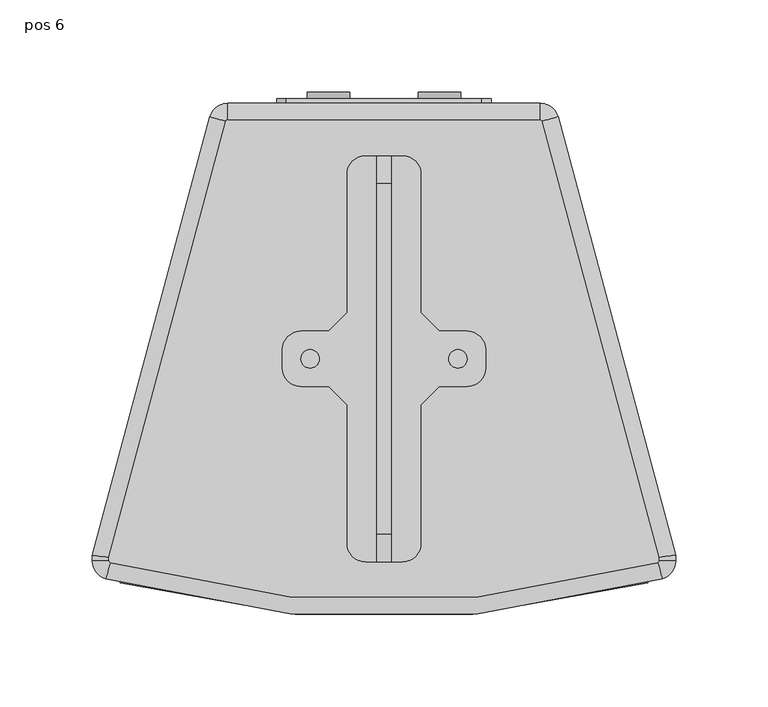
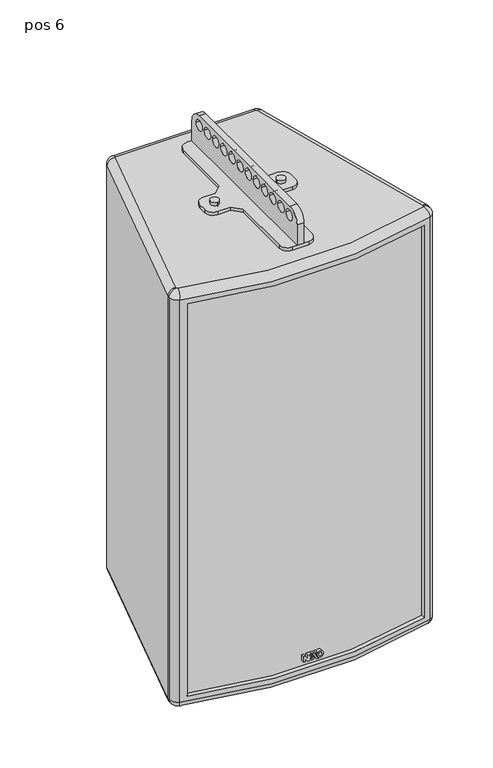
"""IFC4 building model written with IfcOpenShell, lengths in millimetres: proxy geometry, ePS10-BUMP-TRUSSVM : pos 6."""

from ifc_helpers import new_model, si_unit, point, frame, frame_2d, origin, origin_2d, place, context, project, spatial, polyline, circle_curve, ellipse_curve, trimmed, segment, composite_curve, outline, extrude, source, transform, mapped, element, save
from ifc_brep_helpers import plane_surface, cylinder_surface, revolved_surface, advanced_brep


def pos_6_8d53869b(model_context):
    return source(origin(), model_context, "Body", "SolidModel", [
        extrude(outline(composite_curve([segment(trimmed(circle_curve(frame_2d((-40.0511607, 8.0259228)), 5.0), [point((-45.0511607, 8.0259228))], [point((-35.0511607, 8.0259228))], False, "CARTESIAN"), True, "CONTINUOUS"), segment(trimmed(circle_curve(frame_2d((-40.0511607, 8.0259228)), 5.0), [point((-35.0511607, 8.0259228))], [point((-45.0511607, 8.0259228))], False, "CARTESIAN"), True, "CONTINUOUS")], self_intersect=False)), frame((0.0, 0.0, -29.0), z_axis=(0.0, 0.0, 1.0), x_axis=(1.0, 0.0, 0.0)), (0.0, 0.0, 1.0), 4.0),
        extrude(outline(composite_curve([segment(trimmed(circle_curve(frame_2d((40.0511607, 8.0259228)), 5.0), [point((45.0511607, 8.0259228))], [point((35.0511607, 8.0259228))], False, "CARTESIAN"), True, "CONTINUOUS"), segment(trimmed(circle_curve(frame_2d((40.0511607, 8.0259228)), 5.0), [point((35.0511607, 8.0259228))], [point((45.0511607, 8.0259228))], False, "CARTESIAN"), True, "CONTINUOUS")], self_intersect=False)), frame((0.0, 0.0, -29.0), z_axis=(0.0, 0.0, 1.0), x_axis=(1.0, 0.0, 0.0)), (0.0, 0.0, 1.0), 4.0),
        extrude(outline(composite_curve([segment(trimmed(circle_curve(frame_2d((103.0259228, -3.0)), 15.0), [point((103.0259228, 12.0))], [point((118.0259228, -3.0))], False, "CARTESIAN"), True, "CONTINUOUS"), segment(polyline([(118.0259228, -3.0), (118.0259228, -29.0), (-101.9740772, -29.0), (-101.9740772, -3.0)]), True, "CONTINUOUS"), segment(trimmed(circle_curve(frame_2d((-86.9740772, -3.0)), 15.0), [point((-101.9740772, -3.0))], [point((-86.9740772, 12.0))], False, "CARTESIAN"), True, "CONTINUOUS"), segment(polyline([(-86.9740772, 12.0), (103.0259228, 12.0)]), True, "CONTINUOUS")], self_intersect=False), holes=[composite_curve([segment(trimmed(circle_curve(origin_2d(), 6.5), [point((-6.5, 0.0))], [point((6.5, 0.0))], True, "CARTESIAN"), True, "CONTINUOUS"), segment(trimmed(circle_curve(origin_2d(), 6.5), [point((6.5, 0.0))], [point((-6.5, 0.0))], True, "CARTESIAN"), True, "CONTINUOUS")], self_intersect=False), composite_curve([segment(trimmed(circle_curve(frame_2d((-17.078125, 0.0)), 6.5), [point((-23.578125, 0.0))], [point((-10.578125, 0.0))], True, "CARTESIAN"), True, "CONTINUOUS"), segment(trimmed(circle_curve(frame_2d((-17.078125, 0.0)), 6.5), [point((-10.578125, 0.0))], [point((-23.578125, 0.0))], True, "CARTESIAN"), True, "CONTINUOUS")], self_intersect=False), composite_curve([segment(trimmed(circle_curve(frame_2d((-34.15625, 0.0)), 6.5), [point((-40.65625, 0.0))], [point((-27.65625, 0.0))], True, "CARTESIAN"), True, "CONTINUOUS"), segment(trimmed(circle_curve(frame_2d((-34.15625, 0.0)), 6.5), [point((-27.65625, 0.0))], [point((-40.65625, 0.0))], True, "CARTESIAN"), True, "CONTINUOUS")], self_intersect=False), composite_curve([segment(trimmed(circle_curve(frame_2d((-51.234375, 0.0)), 6.5), [point((-57.734375, 0.0))], [point((-44.734375, 0.0))], True, "CARTESIAN"), True, "CONTINUOUS"), segment(trimmed(circle_curve(frame_2d((-51.234375, 0.0)), 6.5), [point((-44.734375, 0.0))], [point((-57.734375, 0.0))], True, "CARTESIAN"), True, "CONTINUOUS")], self_intersect=False), composite_curve([segment(trimmed(circle_curve(frame_2d((-68.3125, 0.0)), 6.5), [point((-74.8125, 0.0))], [point((-61.8125, 0.0))], True, "CARTESIAN"), True, "CONTINUOUS"), segment(trimmed(circle_curve(frame_2d((-68.3125, 0.0)), 6.5), [point((-61.8125, 0.0))], [point((-74.8125, 0.0))], True, "CARTESIAN"), True, "CONTINUOUS")], self_intersect=False), composite_curve([segment(trimmed(circle_curve(frame_2d((-85.390625, 0.0)), 6.5), [point((-91.890625, 0.0))], [point((-78.890625, 0.0))], True, "CARTESIAN"), True, "CONTINUOUS"), segment(trimmed(circle_curve(frame_2d((-85.390625, 0.0)), 6.5), [point((-78.890625, 0.0))], [point((-91.890625, 0.0))], True, "CARTESIAN"), True, "CONTINUOUS")], self_intersect=False), composite_curve([segment(trimmed(circle_curve(frame_2d((17.1087587, 0.0)), 6.5), [point((23.6087587, 0.0))], [point((10.6087587, 0.0))], True, "CARTESIAN"), True, "CONTINUOUS"), segment(trimmed(circle_curve(frame_2d((17.1087587, 0.0)), 6.5), [point((10.6087587, 0.0))], [point((23.6087587, 0.0))], True, "CARTESIAN"), True, "CONTINUOUS")], self_intersect=False), composite_curve([segment(trimmed(circle_curve(frame_2d((34.1868837, 0.0)), 6.5), [point((40.6868837, 0.0))], [point((27.6868837, 0.0))], True, "CARTESIAN"), True, "CONTINUOUS"), segment(trimmed(circle_curve(frame_2d((34.1868837, 0.0)), 6.5), [point((27.6868837, 0.0))], [point((40.6868837, 0.0))], True, "CARTESIAN"), True, "CONTINUOUS")], self_intersect=False), composite_curve([segment(trimmed(circle_curve(frame_2d((51.2650087, 0.0)), 6.5), [point((57.7650087, 0.0))], [point((44.7650087, 0.0))], True, "CARTESIAN"), True, "CONTINUOUS"), segment(trimmed(circle_curve(frame_2d((51.2650087, 0.0)), 6.5), [point((44.7650087, 0.0))], [point((57.7650087, 0.0))], True, "CARTESIAN"), True, "CONTINUOUS")], self_intersect=False), composite_curve([segment(trimmed(circle_curve(frame_2d((68.3431337, 0.0)), 6.5), [point((74.8431337, 0.0))], [point((61.8431337, 0.0))], True, "CARTESIAN"), True, "CONTINUOUS"), segment(trimmed(circle_curve(frame_2d((68.3431337, 0.0)), 6.5), [point((61.8431337, 0.0))], [point((74.8431337, 0.0))], True, "CARTESIAN"), True, "CONTINUOUS")], self_intersect=False), composite_curve([segment(trimmed(circle_curve(frame_2d((85.4212587, 0.0)), 6.5), [point((91.9212587, 0.0))], [point((78.9212587, 0.0))], True, "CARTESIAN"), True, "CONTINUOUS"), segment(trimmed(circle_curve(frame_2d((85.4212587, 0.0)), 6.5), [point((78.9212587, 0.0))], [point((91.9212587, 0.0))], True, "CARTESIAN"), True, "CONTINUOUS")], self_intersect=False), composite_curve([segment(trimmed(circle_curve(frame_2d((102.4993837, 0.0)), 6.5), [point((108.9993837, 0.0))], [point((95.9993837, 0.0))], True, "CARTESIAN"), True, "CONTINUOUS"), segment(trimmed(circle_curve(frame_2d((102.4993837, 0.0)), 6.5), [point((95.9993837, 0.0))], [point((108.9993837, 0.0))], True, "CARTESIAN"), True, "CONTINUOUS")], self_intersect=False)]), frame((-4.0, 0.0, 0.0), z_axis=(1.0, 0.0, 0.0), x_axis=(0.0, 1.0, 0.0)), (0.0, 0.0, 1.0), 8.0),
        extrude(outline(composite_curve([segment(polyline([(-20.0, 33.0259228), (-20.0, 108.0259228)]), True, "CONTINUOUS"), segment(trimmed(circle_curve(frame_2d((-10.0, 108.0259228)), 10.0), [point((-20.0, 108.0259228))], [point((-10.0, 118.0259228))], False, "CARTESIAN"), True, "CONTINUOUS"), segment(polyline([(-10.0, 118.0259228), (10.0, 118.0259228)]), True, "CONTINUOUS"), segment(trimmed(circle_curve(frame_2d((10.0, 108.0259228)), 10.0), [point((10.0, 118.0259228))], [point((20.0, 108.0259228))], False, "CARTESIAN"), True, "CONTINUOUS"), segment(polyline([(20.0, 108.0259228), (20.0, 33.0259228), (30.0, 23.0259228), (45.0, 23.0259228)]), True, "CONTINUOUS"), segment(trimmed(circle_curve(frame_2d((45.0, 13.0259228)), 10.0), [point((45.0, 23.0259228))], [point((55.0, 13.0259228))], False, "CARTESIAN"), True, "CONTINUOUS"), segment(polyline([(55.0, 13.0259228), (55.0, 3.0259228)]), True, "CONTINUOUS"), segment(trimmed(circle_curve(frame_2d((45.0, 3.0259228)), 10.0), [point((55.0, 3.0259228))], [point((45.0, -6.9740772))], False, "CARTESIAN"), True, "CONTINUOUS"), segment(polyline([(45.0, -6.9740772), (30.0, -6.9740772), (20.0, -16.9740772), (20.0, -91.9740772)]), True, "CONTINUOUS"), segment(trimmed(circle_curve(frame_2d((10.0, -91.9740772)), 10.0), [point((20.0, -91.9740772))], [point((10.0, -101.9740772))], False, "CARTESIAN"), True, "CONTINUOUS"), segment(polyline([(10.0, -101.9740772), (-10.0, -101.9740772)]), True, "CONTINUOUS"), segment(trimmed(circle_curve(frame_2d((-10.0, -91.9740772)), 10.0), [point((-10.0, -101.9740772))], [point((-20.0, -91.9740772))], False, "CARTESIAN"), True, "CONTINUOUS"), segment(polyline([(-20.0, -91.9740772), (-20.0, -16.9740772), (-30.0, -6.9740772), (-45.0, -6.9740772)]), True, "CONTINUOUS"), segment(trimmed(circle_curve(frame_2d((-45.0, 3.0259228)), 10.0), [point((-45.0, -6.9740772))], [point((-55.0, 3.0259228))], False, "CARTESIAN"), True, "CONTINUOUS"), segment(polyline([(-55.0, 3.0259228), (-55.0, 13.0259228)]), True, "CONTINUOUS"), segment(trimmed(circle_curve(frame_2d((-45.0, 13.0259228)), 10.0), [point((-55.0, 13.0259228))], [point((-45.0, 23.0259228))], False, "CARTESIAN"), True, "CONTINUOUS"), segment(polyline([(-45.0, 23.0259228), (-30.0, 23.0259228), (-20.0, 33.0259228)]), True, "CONTINUOUS")], self_intersect=False), holes=[composite_curve([segment(trimmed(circle_curve(frame_2d((-40.0102651, 8.0259228)), 3.0), [point((-43.0102651, 8.0259228))], [point((-37.0102651, 8.0259228))], True, "CARTESIAN"), True, "CONTINUOUS"), segment(trimmed(circle_curve(frame_2d((-40.0102651, 8.0259228)), 3.0), [point((-37.0102651, 8.0259228))], [point((-43.0102651, 8.0259228))], True, "CARTESIAN"), True, "CONTINUOUS")], self_intersect=False), composite_curve([segment(trimmed(circle_curve(frame_2d((40.0102651, 8.0259228)), 3.0), [point((43.0102651, 8.0259228))], [point((37.0102651, 8.0259228))], True, "CARTESIAN"), True, "CONTINUOUS"), segment(trimmed(circle_curve(frame_2d((40.0102651, 8.0259228)), 3.0), [point((37.0102651, 8.0259228))], [point((43.0102651, 8.0259228))], True, "CARTESIAN"), True, "CONTINUOUS")], self_intersect=False)]), frame((0.0, 0.0, -33.0), z_axis=(0.0, 0.0, 1.0), x_axis=(1.0, 0.0, 0.0)), (0.0, 0.0, 1.0), 4.0),
        extrude(outline(composite_curve([segment(trimmed(circle_curve(frame_2d((-538.2298911, 8.0750207)), 3.9406238), [point((-538.2298911, 4.1343969))], [point((-538.2298911, 12.0156446))], False, "CARTESIAN"), True, "CONTINUOUS"), segment(trimmed(circle_curve(frame_2d((-538.2298911, 8.0750207)), 3.9406238), [point((-538.2298911, 12.0156446))], [point((-538.2298911, 4.1343969))], False, "CARTESIAN"), True, "CONTINUOUS")], self_intersect=False), holes=[composite_curve([segment(trimmed(circle_curve(frame_2d((-538.2298911, 8.0750207)), 2.0681078), [point((-538.2298911, 6.0069129))], [point((-538.2298911, 10.1431285))], True, "CARTESIAN"), True, "CONTINUOUS"), segment(trimmed(circle_curve(frame_2d((-538.2298911, 8.0750207)), 2.0681078), [point((-538.2298911, 10.1431285))], [point((-538.2298911, 6.0069129))], True, "CARTESIAN"), True, "CONTINUOUS")], self_intersect=False)]), frame((0.0, -129.4740772, 0.0), z_axis=(0.0, 1.0, 0.0), x_axis=(0.0, 0.0, 1.0)), (0.0, 0.0, 1.0), 5.0),
        extrude(outline(polyline([(-534.5590531, -11.9363528), (-541.8388202, -11.9363528), (-541.8388202, -10.0439855), (-537.6734899, -10.0439855), (-541.8388202, -7.2688886), (-541.8388202, -0.4179789), (-539.963849, 0.9005934), (-538.3643156, -0.1627837), (-540.2361557, -1.5323263), (-540.2361557, -4.5659556), (-538.9818684, -4.5659556), (-538.9818684, -2.2828427), (-537.3791381, -2.2828427), (-537.3791381, -4.5659556), (-536.1626349, -4.5659556), (-536.1626349, -2.1588809), (-535.3626349, -2.1588809), (-534.5599046, -2.6925396), (-534.5599046, -6.9609157), (-539.0099607, -6.9706073), (-534.5590531, -9.9098734), (-534.5590531, -11.9363528)])), frame((0.0, -129.4740772, 0.0), z_axis=(0.0, 1.0, 0.0), x_axis=(0.0, 0.0, 1.0)), (0.0, 0.0, 1.0), 5.0),
        extrude(outline(polyline([(-534.5590531, -2.0512245), (-542.8, 3.4273947), (-542.8, 5.6205974), (-534.5590531, 0.1419782), (-534.5590531, -2.0512245)])), frame((0.0, -129.4740772, 0.0), z_axis=(0.0, 1.0, 0.0), x_axis=(0.0, 0.0, 1.0)), (0.0, 0.0, 1.0), 5.0),
        extrude(outline(polyline([(-534.5590531, 4.6894095), (-534.5590531, 2.362619), (-535.8270101, 1.6148247), (-537.457904, 2.6990504), (-534.5590531, 4.6894095)])), frame((0.0, -129.4740772, 0.0), z_axis=(0.0, 1.0, 0.0), x_axis=(0.0, 0.0, 1.0)), (0.0, 0.0, 1.0), 5.0),
        extrude(outline(composite_curve([segment(trimmed(circle_curve(frame_2d((-526.5, -30.0)), 11.4515227), [point((-526.5, -18.5484773))], [point((-526.5, -41.4515227))], False, "CARTESIAN"), True, "CONTINUOUS"), segment(trimmed(circle_curve(frame_2d((-526.5, -30.0)), 11.4515227), [point((-526.5, -41.4515227))], [point((-526.5, -18.5484773))], False, "CARTESIAN"), True, "CONTINUOUS")], self_intersect=False), holes=[composite_curve([segment(trimmed(circle_curve(frame_2d((-526.5, -30.0)), 5.0), [point((-526.5, -25.0))], [point((-526.5, -35.0))], True, "CARTESIAN"), True, "CONTINUOUS"), segment(trimmed(circle_curve(frame_2d((-526.5, -30.0)), 5.0), [point((-526.5, -35.0))], [point((-526.5, -25.0))], True, "CARTESIAN"), True, "CONTINUOUS")], self_intersect=False)]), frame((0.0, 149.1206583, 0.0), z_axis=(0.0, 1.0, 0.0), x_axis=(0.0, 0.0, 1.0)), (0.0, 0.0, 1.0), 3.4052646),
        extrude(outline(composite_curve([segment(trimmed(circle_curve(frame_2d((-526.5, 30.0)), 11.4515227), [point((-526.5, 41.4515227))], [point((-526.5, 18.5484773))], False, "CARTESIAN"), True, "CONTINUOUS"), segment(trimmed(circle_curve(frame_2d((-526.5, 30.0)), 11.4515227), [point((-526.5, 18.5484773))], [point((-526.5, 41.4515227))], False, "CARTESIAN"), True, "CONTINUOUS")], self_intersect=False), holes=[composite_curve([segment(trimmed(circle_curve(frame_2d((-526.5, 30.0)), 5.0), [point((-526.5, 35.0))], [point((-526.5, 25.0))], True, "CARTESIAN"), True, "CONTINUOUS"), segment(trimmed(circle_curve(frame_2d((-526.5, 30.0)), 5.0), [point((-526.5, 25.0))], [point((-526.5, 35.0))], True, "CARTESIAN"), True, "CONTINUOUS")], self_intersect=False)]), frame((0.0, 149.1206583, 0.0), z_axis=(0.0, 1.0, 0.0), x_axis=(0.0, 0.0, 1.0)), (0.0, 0.0, 1.0), 3.4052646),
        extrude(outline(composite_curve([segment(polyline([(-507.5, 53.0), (-507.5, -53.0)]), True, "CONTINUOUS"), segment(trimmed(circle_curve(frame_2d((-512.5, -53.0)), 5.0), [point((-507.5, -53.0))], [point((-512.5, -58.0))], False, "CARTESIAN"), True, "CONTINUOUS"), segment(polyline([(-512.5, -58.0), (-540.5, -58.0)]), True, "CONTINUOUS"), segment(trimmed(circle_curve(frame_2d((-540.5, -53.0)), 5.0), [point((-540.5, -58.0))], [point((-545.5, -53.0))], False, "CARTESIAN"), True, "CONTINUOUS"), segment(polyline([(-545.5, -53.0), (-545.5, 53.0)]), True, "CONTINUOUS"), segment(trimmed(circle_curve(frame_2d((-540.5, 53.0)), 5.0), [point((-545.5, 53.0))], [point((-540.5, 58.0))], False, "CARTESIAN"), True, "CONTINUOUS"), segment(polyline([(-540.5, 58.0), (-512.5, 58.0)]), True, "CONTINUOUS"), segment(trimmed(circle_curve(frame_2d((-512.5, 53.0)), 5.0), [point((-512.5, 58.0))], [point((-507.5, 53.0))], False, "CARTESIAN"), True, "CONTINUOUS")], self_intersect=False)), frame((0.0, 146.6206583, 0.0), z_axis=(0.0, 1.0, 0.0), x_axis=(0.0, 0.0, 1.0)), (0.0, 0.0, 1.0), 2.5),
        advanced_brep(
        [(0.0, 3.0259228, -37.0), (0.0, 13.0259228, -37.0), (0.0, 13.0259228, -33.0), (0.0, 3.0259228, -33.0), (40.0, 3.0259228, -37.0), (40.0, 13.0259228, -37.0), (40.0, 13.0259228, -33.0), (40.0, 3.0259228, -33.0), (-143.0, -113.3746266, -48.0), (-143.0, -108.1907902, -48.0), (143.0, -108.1907902, -48.0), (143.0, -113.3746266, -48.0), (143.0, -113.3746266, -549.0), (143.0, -108.1907902, -549.0), (-143.0, -108.1907902, -549.0), (-143.0, -113.3746266, -549.0), (0.0, 13.0259228, -560.0), (0.0, 3.0259228, -560.0), (-40.0, 13.0259228, -560.0), (-40.0, 3.0259228, -560.0), (40.0, 13.0259228, -560.0), (40.0, 3.0259228, -560.0), (-158.0, -98.4045543, -41.9917234), (-94.3316806, 139.2088487, -41.9917234), (-94.3316806, 139.2088487, -555.0), (-158.0, -98.4045543, -555.0), (-158.0, -101.5881594, -41.9917234), (-158.0, -101.5881594, -555.0), (150.7700973, -111.1968305, -41.9917234), (-150.7700973, -111.1968305, -41.9917234), (-150.7700973, -111.1968305, -555.000006), (150.7700973, -111.1968305, -555.0), (158.0, -98.4045543, -41.9917234), (158.0, -101.5881594, -41.9917234), (158.0, -101.5881594, -555.0), (158.0, -98.4045543, -555.0), (94.3316806, 139.2088487, -41.9917234), (94.3316806, 139.2088487, -555.0), (84.6724223, 146.6206583, -41.9917234), (84.6724223, 146.6206583, -555.0), (-40.6566026, 140.5259228, -228.5), (-29.3432823, 140.5259228, -228.5), (-29.3432823, 146.6206583, -228.5), (-40.6566026, 146.6206583, -228.5), (-149.0082766, -101.5881594, -33.0), (-148.2793024, -102.5569793, -33.0), (148.2793024, -102.5569793, -33.0), (149.0082766, -101.5881594, -33.0), (149.0082766, -99.5883371, -33.0), (85.6463427, 136.8816195, -33.0), (84.6724223, 137.6289349, -33.0), (-84.6724223, 146.6206583, -41.9917234), (-84.6724223, 137.6289349, -33.0), (-85.6463427, 136.8816195, -33.0), (-149.0082766, -99.5883371, -33.0), (-40.0, 3.0259228, -33.0), (-40.0, 13.0259228, -33.0), (84.6724223, 137.6206583, -564.0), (85.6383481, 136.8794773, -564.0), (149.0, -99.5894268, -564.0), (149.0, -101.5881594, -564.0), (148.2770097, -102.5490265, -564.0), (-148.2770097, -102.5490265, -564.0), (-149.0, -101.5881594, -564.0), (-149.0, -99.5894268, -564.0), (-85.6383481, 136.8794773, -564.0), (-84.6724223, 137.6206583, -564.0), (0.0, 13.0259228, -564.0), (0.0, 3.0259228, -564.0), (-40.0, 13.0259228, -564.0), (-40.0, 3.0259228, -564.0), (40.0, 13.0259228, -564.0), (40.0, 3.0259228, -564.0), (-40.0, 13.0259228, -37.0), (-40.0, 3.0259228, -37.0), (40.6567177, 140.5259228, -298.5), (29.3433974, 140.5259228, -298.5), (-29.3432823, 140.5259228, -298.5), (-40.6566026, 140.5259228, -298.5), (29.3433974, 146.6206583, -298.5), (40.6567177, 146.6206583, -298.5), (-84.6724223, 146.6206583, -555.0), (-29.3432823, 146.6206583, -298.5), (-40.6566026, 146.6206583, -298.5)],
        [
            (0, 1, circle_curve(frame((0.0, 8.0259228, -37.0), z_axis=(0.0, 0.0, -1.0), x_axis=(0.0, -1.0, 0.0)), 5.0)),
            (1, 2),
            (2, 3, circle_curve(frame((0.0, 8.0259228, -33.0), z_axis=(0.0, 0.0, 1.0), x_axis=(0.0, -1.0, 0.0)), 5.0)),
            (3, 0),
            (4, 5, circle_curve(frame((40.0, 8.0259228, -37.0), z_axis=(0.0, 0.0, -1.0), x_axis=(0.0, -1.0, 0.0)), 5.0)),
            (5, 6),
            (6, 7, circle_curve(frame((40.0, 8.0259228, -33.0), z_axis=(0.0, 0.0, 1.0), x_axis=(0.0, -1.0, 0.0)), 5.0)),
            (7, 4),
            (8, 9),
            (9, 10, circle_curve(frame((0.0, 411.7812942, -48.0), z_axis=(0.0, 0.0, 1.0), x_axis=(1.0, 0.0, 0.0)), 539.277265)),
            (10, 11),
            (11, 8, circle_curve(frame((0.0, 411.7812942, -48.0), z_axis=(0.0, 0.0, -1.0), x_axis=(1.0, 0.0, 0.0)), 544.277265)),
            (12, 13),
            (13, 14, circle_curve(frame((0.0, 411.7812942, -549.0), z_axis=(0.0, 0.0, -1.0), x_axis=(1.0, 0.0, 0.0)), 539.277265)),
            (14, 15),
            (15, 12, circle_curve(frame((0.0, 411.7812942, -549.0), z_axis=(0.0, 0.0, 1.0), x_axis=(1.0, 0.0, 0.0)), 544.277265)),
            (16, 17, circle_curve(frame((0.0, 8.0259228, -560.0), z_axis=(0.0, 0.0, -1.0), x_axis=(0.0, -1.0, 0.0)), 5.0)),
            (17, 16, circle_curve(frame((0.0, 8.0259228, -560.0), z_axis=(0.0, 0.0, -1.0), x_axis=(0.0, -1.0, 0.0)), 5.0)),
            (18, 19, circle_curve(frame((-40.0, 8.0259228, -560.0), z_axis=(0.0, 0.0, -1.0), x_axis=(0.0, -1.0, 0.0)), 5.0)),
            (19, 18, circle_curve(frame((-40.0, 8.0259228, -560.0), z_axis=(0.0, 0.0, -1.0), x_axis=(0.0, -1.0, 0.0)), 5.0)),
            (20, 21, circle_curve(frame((40.0, 8.0259228, -560.0), z_axis=(0.0, 0.0, -1.0), x_axis=(0.0, -1.0, 0.0)), 5.0)),
            (21, 20, circle_curve(frame((40.0, 8.0259228, -560.0), z_axis=(0.0, 0.0, -1.0), x_axis=(0.0, -1.0, 0.0)), 5.0)),
            (22, 23),
            (23, 24),
            (24, 25),
            (25, 22),
            (26, 22),
            (25, 27),
            (27, 26),
            (28, 29, circle_curve(frame((0.0, 411.7812942, -41.9917234), z_axis=(0.0, 0.0, -1.0), x_axis=(1.0, 0.0, 0.0)), 544.277265)),
            (29, 30),
            (30, 31, circle_curve(frame((0.0, 411.7812942, -555.0), z_axis=(0.0, 0.0, 1.0), x_axis=(1.0, 0.0, 0.0)), 544.277265)),
            (31, 28),
            (11, 12),
            (15, 8),
            (32, 33),
            (33, 34),
            (34, 35),
            (35, 32),
            (36, 32),
            (35, 37),
            (37, 36),
            (38, 36, circle_curve(frame((84.6724223, 136.6206583, -41.9917234), z_axis=(0.0, 0.0, -1.0), x_axis=(1.0, 0.0, 0.0)), 10.0)),
            (37, 39, circle_curve(frame((84.6724223, 136.6206583, -555.0), z_axis=(0.0, 0.0, 1.0), x_axis=(1.0, 0.0, 0.0)), 10.0)),
            (39, 38),
            (29, 26, circle_curve(frame((-148.0, -101.5881594, -41.9917234), z_axis=(0.0, 0.0, -1.0), x_axis=(1.0, 0.0, 0.0)), 10.0)),
            (27, 30, circle_curve(frame((-148.0, -101.5881594, -555.0), z_axis=(0.0, 0.0, 1.0), x_axis=(1.0, 0.0, 0.0)), 10.0)),
            (33, 28, circle_curve(frame((148.0, -101.5881594, -41.9917234), z_axis=(0.0, 0.0, -1.0), x_axis=(1.0, 0.0, 0.0)), 10.0)),
            (31, 34, circle_curve(frame((148.0, -101.5881594, -555.0), z_axis=(0.0, 0.0, 1.0), x_axis=(1.0, 0.0, 0.0)), 10.0)),
            (40, 41, circle_curve(frame((-34.9999424, 140.5259228, -228.5), z_axis=(0.0, -1.0, 0.0), x_axis=(-1.0, 0.0, 0.0)), 5.6566602)),
            (41, 42),
            (42, 43, circle_curve(frame((-34.9999424, 146.6206583, -228.5), z_axis=(0.0, 1.0, 0.0), x_axis=(-1.0, 0.0, 0.0)), 5.6566602)),
            (43, 40),
            (41, 40, circle_curve(frame((-34.9999424, 140.5259228, -228.5), z_axis=(0.0, -1.0, 0.0), x_axis=(-1.0, 0.0, 0.0)), 5.6566602)),
            (43, 42, circle_curve(frame((-34.9999424, 146.6206583, -228.5), z_axis=(0.0, 1.0, 0.0), x_axis=(-1.0, 0.0, 0.0)), 5.6566602)),
            (10, 13),
            (44, 26, circle_curve(frame((-149.0082766, -101.5881594, -41.9917234), z_axis=(0.0, -1.0, 0.0), x_axis=(1.0, 0.0, 0.0)), 8.9917234)),
            (29, 45, circle_curve(frame((-148.2793024, -102.5569793, -41.9917234), z_axis=(-0.9608671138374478, 0.2770097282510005, 0.0), x_axis=(0.2770097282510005, 0.9608671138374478, 0.0)), 8.9917234)),
            (45, 44, circle_curve(frame((-148.0, -101.5881594, -33.0), z_axis=(0.0, 0.0, -1.0), x_axis=(-1.0, 0.0, 0.0)), 1.0082766)),
            (28, 46, circle_curve(frame((148.2793024, -102.5569793, -41.9917234), z_axis=(-0.9608671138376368, -0.2770097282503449, 0.0), x_axis=(-0.2770097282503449, 0.9608671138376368, 0.0)), 8.9917234)),
            (46, 45, circle_curve(frame((0.0, 411.7812942, -33.0), z_axis=(0.0, 0.0, -1.0), x_axis=(-0.2770097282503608, -0.9608671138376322, 0.0)), 535.2855417)),
            (33, 47, circle_curve(frame((149.0082766, -101.5881594, -41.9917234), z_axis=(0.0, -1.0, 0.0), x_axis=(-1.0, 0.0, 0.0)), 8.9917234)),
            (47, 46, circle_curve(frame((148.0, -101.5881594, -33.0), z_axis=(0.0, 0.0, -1.0), x_axis=(0.27700972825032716, -0.9608671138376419, 0.0)), 1.0082766)),
            (32, 48, ellipse_curve(frame((149.0082766, -99.5883371, -41.9917234), z_axis=(0.13052619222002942, -0.9914448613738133, 0.0), x_axis=(0.991444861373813, 0.1305261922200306, 0.0)), 9.0693126, 8.9917234)),
            (48, 47),
            (36, 49, circle_curve(frame((85.6463427, 136.8816195, -41.9917234), z_axis=(0.25881904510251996, -0.9659258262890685, 0.0), x_axis=(-0.9659258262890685, -0.25881904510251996, 0.0)), 8.9917234)),
            (49, 48),
            (38, 50, circle_curve(frame((84.6724223, 137.6289349, -41.9917234), z_axis=(1.0, 0.0, 0.0), x_axis=(0.0, -1.0, 0.0)), 8.9917234)),
            (50, 49, circle_curve(frame((84.6724223, 136.6206583, -33.0), z_axis=(0.0, 0.0, -1.0), x_axis=(0.96592582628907, 0.25881904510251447, 0.0)), 1.0082766)),
            (51, 52, circle_curve(frame((-84.6724223, 137.6289349, -41.9917234), z_axis=(1.0, 0.0, 0.0), x_axis=(0.0, -1.0, 0.0)), 8.9917234)),
            (52, 50),
            (38, 51),
            (52, 53, circle_curve(frame((-84.6724223, 136.6206583, -33.0), z_axis=(0.0, 0.0, 1.0), x_axis=(0.0, 1.0, 0.0)), 1.0082766)),
            (53, 54),
            (54, 44),
            (2, 3, circle_curve(frame((0.0, 8.0259228, -33.0), z_axis=(0.0, 0.0, -1.0), x_axis=(0.0, -1.0, 0.0)), 5.0)),
            (55, 56, circle_curve(frame((-40.0, 8.0259228, -33.0), z_axis=(0.0, 0.0, -1.0), x_axis=(0.0, -1.0, 0.0)), 5.0)),
            (56, 55, circle_curve(frame((-40.0, 8.0259228, -33.0), z_axis=(0.0, 0.0, -1.0), x_axis=(0.0, -1.0, 0.0)), 5.0)),
            (6, 7, circle_curve(frame((40.0, 8.0259228, -33.0), z_axis=(0.0, 0.0, -1.0), x_axis=(0.0, -1.0, 0.0)), 5.0)),
            (57, 58, circle_curve(frame((84.6724223, 136.6206583, -564.0), z_axis=(0.0, 0.0, -1.0), x_axis=(0.0, 1.0, 0.0)), 1.0)),
            (58, 59),
            (59, 60),
            (60, 61, circle_curve(frame((148.0, -101.5881594, -564.0), z_axis=(0.0, 0.0, -1.0), x_axis=(1.0, 0.0, 0.0)), 1.0)),
            (61, 62, circle_curve(frame((0.0, 411.7812942, -564.0), z_axis=(0.0, 0.0, -1.0), x_axis=(0.2770097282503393, -0.9608671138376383, 0.0)), 535.277265)),
            (62, 63, circle_curve(frame((-148.0, -101.5881594, -564.0), z_axis=(0.0, 0.0, -1.0), x_axis=(-0.2770097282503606, -0.9608671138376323, 0.0)), 1.0)),
            (63, 64),
            (64, 65),
            (65, 66, circle_curve(frame((-84.6724223, 136.6206583, -564.0), z_axis=(0.0, 0.0, -1.0), x_axis=(-0.9659258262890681, 0.2588190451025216, 0.0)), 1.0)),
            (66, 57),
            (67, 68, circle_curve(frame((0.0, 8.0259228, -564.0), z_axis=(0.0, 0.0, 1.0), x_axis=(0.0, -1.0, 0.0)), 5.0)),
            (68, 67, circle_curve(frame((0.0, 8.0259228, -564.0), z_axis=(0.0, 0.0, 1.0), x_axis=(0.0, -1.0, 0.0)), 5.0)),
            (69, 70, circle_curve(frame((-40.0, 8.0259228, -564.0), z_axis=(0.0, 0.0, 1.0), x_axis=(0.0, -1.0, 0.0)), 5.0)),
            (70, 69, circle_curve(frame((-40.0, 8.0259228, -564.0), z_axis=(0.0, 0.0, 1.0), x_axis=(0.0, -1.0, 0.0)), 5.0)),
            (71, 72, circle_curve(frame((40.0, 8.0259228, -564.0), z_axis=(0.0, 0.0, 1.0), x_axis=(0.0, -1.0, 0.0)), 5.0)),
            (72, 71, circle_curve(frame((40.0, 8.0259228, -564.0), z_axis=(0.0, 0.0, 1.0), x_axis=(0.0, -1.0, 0.0)), 5.0)),
            (0, 1, circle_curve(frame((0.0, 8.0259228, -37.0), z_axis=(0.0, 0.0, 1.0), x_axis=(0.0, -1.0, 0.0)), 5.0)),
            (73, 74, circle_curve(frame((-40.0, 8.0259228, -37.0), z_axis=(0.0, 0.0, 1.0), x_axis=(0.0, -1.0, 0.0)), 5.0)),
            (74, 73, circle_curve(frame((-40.0, 8.0259228, -37.0), z_axis=(0.0, 0.0, 1.0), x_axis=(0.0, -1.0, 0.0)), 5.0)),
            (4, 5, circle_curve(frame((40.0, 8.0259228, -37.0), z_axis=(0.0, 0.0, 1.0), x_axis=(0.0, -1.0, 0.0)), 5.0)),
            (17, 68),
            (67, 16),
            (19, 70),
            (69, 18),
            (21, 72),
            (71, 20),
            (75, 76, circle_curve(frame((35.0000576, 140.5259228, -298.5), z_axis=(0.0, 1.0, 0.0), x_axis=(-1.0, 0.0, 0.0)), 5.6566602)),
            (76, 75, circle_curve(frame((35.0000576, 140.5259228, -298.5), z_axis=(0.0, 1.0, 0.0), x_axis=(-1.0, 0.0, 0.0)), 5.6566602)),
            (77, 78, circle_curve(frame((-34.9999424, 140.5259228, -298.5), z_axis=(0.0, 1.0, 0.0), x_axis=(-1.0, 0.0, 0.0)), 5.6566602)),
            (78, 77, circle_curve(frame((-34.9999424, 140.5259228, -298.5), z_axis=(0.0, 1.0, 0.0), x_axis=(-1.0, 0.0, 0.0)), 5.6566602)),
            (76, 79),
            (79, 80, circle_curve(frame((35.0000576, 146.6206583, -298.5), z_axis=(0.0, 1.0, 0.0), x_axis=(-1.0, 0.0, 0.0)), 5.6566602)),
            (80, 75),
            (80, 79, circle_curve(frame((35.0000576, 146.6206583, -298.5), z_axis=(0.0, 1.0, 0.0), x_axis=(-1.0, 0.0, 0.0)), 5.6566602)),
            (39, 81),
            (81, 51),
            (82, 83, circle_curve(frame((-34.9999424, 146.6206583, -298.5), z_axis=(0.0, -1.0, 0.0), x_axis=(-1.0, 0.0, 0.0)), 5.6566602)),
            (83, 82, circle_curve(frame((-34.9999424, 146.6206583, -298.5), z_axis=(0.0, -1.0, 0.0), x_axis=(-1.0, 0.0, 0.0)), 5.6566602)),
            (9, 14),
            (23, 53, circle_curve(frame((-85.6463427, 136.8816195, -41.9917234), z_axis=(0.2588190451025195, 0.9659258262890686, 0.0), x_axis=(0.9659258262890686, -0.2588190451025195, 0.0)), 8.9917234)),
            (51, 23, circle_curve(frame((-84.6724223, 136.6206583, -41.9917234), z_axis=(0.0, 0.0, 1.0), x_axis=(0.0, 1.0, 0.0)), 10.0)),
            (22, 54, ellipse_curve(frame((-149.0082766, -99.5883371, -41.9917234), z_axis=(0.1305261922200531, 0.9914448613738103, 0.0), x_axis=(-0.99144486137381, 0.1305261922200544, 0.0)), 9.0693126, 8.9917234)),
            (61, 31, circle_curve(frame((148.2770097, -102.5490265, -555.0), z_axis=(-0.9608671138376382, -0.27700972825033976, 0.0), x_axis=(-0.27700972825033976, 0.9608671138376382, 0.0)), 9.0)),
            (30, 62, circle_curve(frame((-148.2770097, -102.5490265, -555.0), z_axis=(0.9608671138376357, -0.27700972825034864, 0.0), x_axis=(0.27700972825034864, 0.9608671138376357, 0.0)), 9.0)),
            (27, 63, circle_curve(frame((-149.0, -101.5881594, -555.0), z_axis=(0.0, -1.0, 0.0), x_axis=(1.0, 0.0, 0.0)), 9.0)),
            (25, 64, ellipse_curve(frame((-149.0, -99.5894268, -555.0), z_axis=(-0.13052619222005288, -0.9914448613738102, 0.0), x_axis=(-0.99144486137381, 0.13052619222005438, 0.0)), 9.0776606, 9.0)),
            (24, 65, circle_curve(frame((-85.6383481, 136.8794773, -555.0), z_axis=(-0.2588190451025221, -0.965925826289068, 0.0), x_axis=(0.965925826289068, -0.2588190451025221, 0.0)), 9.0)),
            (24, 81, circle_curve(frame((-84.6724223, 136.6206583, -555.0), z_axis=(0.0, 0.0, -1.0), x_axis=(-0.9659258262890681, 0.2588190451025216, 0.0)), 10.0)),
            (81, 66, circle_curve(frame((-84.6724223, 137.6206583, -555.0), z_axis=(-1.0000000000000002, 0.0, 0.0), x_axis=(0.0, -1.0000000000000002, 0.0)), 9.0)),
            (39, 57, circle_curve(frame((84.6724223, 137.6206583, -555.0), z_axis=(-1.0, 0.0, 0.0), x_axis=(0.0, -1.0, 0.0)), 9.0)),
            (73, 56),
            (55, 74),
            (78, 83),
            (82, 77),
            (37, 58, circle_curve(frame((85.6383481, 136.8794773, -555.0), z_axis=(-0.2588190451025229, 0.9659258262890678, 0.0), x_axis=(-0.9659258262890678, -0.2588190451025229, 0.0)), 9.0)),
            (35, 59, ellipse_curve(frame((149.0, -99.5894268, -555.0), z_axis=(-0.1305261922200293, 0.9914448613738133, 0.0), x_axis=(0.9914448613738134, 0.13052619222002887, 0.0)), 9.0776606, 9.0)),
            (34, 60, circle_curve(frame((149.0, -101.5881594, -555.0), z_axis=(0.0, 1.0, 0.0), x_axis=(-1.0, 0.0, 0.0)), 9.0)),
        ],
        [
            revolved_surface(polyline([(0.0, 3.0259228, -33.0), (0.0, 3.0259228, -37.0)]), (0.0, 8.0259228, -37.0), (0.0, 0.0, 1.0)),
            revolved_surface(polyline([(40.0, 3.0259228, -33.0), (40.0, 3.0259228, -37.0)]), (40.0, 8.0259228, -33.0), (0.0, 0.0, 1.0)),
            plane_surface(frame((143.0, -178.7339949, -48.0), z_axis=(0.0, 0.0, -1.0), x_axis=(0.0, 1.0, 0.0))),
            plane_surface(frame((143.0, -178.7339949, -549.0), z_axis=(0.0, 0.0, 1.0), x_axis=(0.0, -1.0, 0.0))),
            plane_surface(frame((0.0, 3.0259228, -560.0), z_axis=(0.0, 0.0, -1.0), x_axis=(1.0, 0.0, 0.0))),
            plane_surface(frame((-94.3316806, 139.2088487, -33.0), z_axis=(-0.9659258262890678, 0.2588190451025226, 0.0), x_axis=(0.0, 0.0, -1.0))),
            plane_surface(frame((-158.0, -98.4045543, -33.0), z_axis=(-1.0, 0.0, 0.0), x_axis=(0.0, 0.0, -1.0))),
            cylinder_surface(frame((0.0, 411.7812942, -564.0), z_axis=(0.0, 0.0, 1.0), x_axis=(1.0, 0.0, 0.0)), 544.277265),
            plane_surface(frame((158.0, -101.5881594, -33.0), z_axis=(1.0, 0.0, 0.0), x_axis=(0.0, 0.0, -1.0))),
            plane_surface(frame((158.0, -98.4045543, -33.0), z_axis=(0.9659258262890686, 0.25881904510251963, 0.0), x_axis=(0.0, 0.0, -1.0))),
            cylinder_surface(frame((84.6724223, 136.6206583, -564.0), z_axis=(0.0, 0.0, 1.0), x_axis=(1.0, 0.0, 0.0)), 10.0),
            cylinder_surface(frame((-148.0, -101.5881594, -564.0), z_axis=(0.0, 0.0, 1.0), x_axis=(1.0, 0.0, 0.0)), 10.0),
            cylinder_surface(frame((148.0, -101.5881594, -564.0), z_axis=(0.0, 0.0, 1.0), x_axis=(1.0, 0.0, 0.0)), 10.0),
            revolved_surface(polyline([(-40.6566026, 146.6206583, -228.5), (-40.6566026, 140.5259228, -228.5)]), (-34.9999424, 152.5259228, -228.5), (0.0, 1.0, 0.0)),
            plane_surface(frame((143.0, -113.3746266, -48.0), z_axis=(-1.0, 0.0, 0.0), x_axis=(0.0, 0.0, -1.0))),
            revolved_surface(trimmed(ellipse_curve(frame((-149.0082766, -101.5881594, -41.9917234), z_axis=(0.0, 1.0, 0.0), x_axis=(1.0, 0.0, 0.0)), 8.9917234, 8.9917234), [point((-158.0, -101.5881594, -41.9917234))], [point((-149.0082766, -101.5881594, -33.0))], True, "CARTESIAN"), (-148.0, -101.5881594, -33.0), (0.0, 0.0, 1.0)),
            revolved_surface(trimmed(ellipse_curve(frame((-148.2793024, -102.5569793, -41.9917234), z_axis=(-0.9608671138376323, 0.2770097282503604, 0.0), x_axis=(0.2770097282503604, 0.9608671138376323, 0.0)), 8.9917234, 8.9917234), [point((-150.7700973, -111.1968305, -41.9917234))], [point((-148.2793024, -102.5569793, -33.0))], True, "CARTESIAN"), (0.0, 411.7812942, -33.0), (0.0, 0.0, 1.0)),
            revolved_surface(trimmed(ellipse_curve(frame((148.2793024, -102.5569793, -41.9917234), z_axis=(-0.9608671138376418, -0.2770097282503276, 0.0), x_axis=(-0.2770097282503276, 0.9608671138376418, 0.0)), 8.9917234, 8.9917234), [point((150.7700973, -111.1968305, -41.9917234))], [point((148.2793024, -102.5569793, -33.0))], True, "CARTESIAN"), (148.0, -101.5881594, -33.0), (0.0, 0.0, 1.0)),
            cylinder_surface(frame((149.0082766, -101.5881594, -41.9917234), z_axis=(0.0, 1.0, 0.0), x_axis=(-1.0, 0.0, 0.0)), 8.9917234),
            cylinder_surface(frame((149.3146622, -100.7317835, -41.9917234), z_axis=(-0.25881904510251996, 0.9659258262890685, 0.0), x_axis=(-0.9659258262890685, -0.25881904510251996, 0.0)), 8.9917234),
            revolved_surface(trimmed(ellipse_curve(frame((85.6463427, 136.8816195, -41.9917234), z_axis=(0.25881904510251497, -0.9659258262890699, 0.0), x_axis=(-0.9659258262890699, -0.25881904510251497, 0.0)), 8.9917234, 8.9917234), [point((94.3316806, 139.2088487, -41.9917234))], [point((85.6463427, 136.8816195, -33.0))], True, "CARTESIAN"), (84.6724223, 136.6206583, -33.0), (0.0, 0.0, 1.0)),
            cylinder_surface(frame((84.6724223, 137.6289349, -41.9917234), z_axis=(-1.0, 0.0, 0.0), x_axis=(0.0, -1.0, 0.0)), 8.9917234),
            plane_surface(frame((-85.0560858, 146.6206583, -33.0), z_axis=(0.0, 0.0, 1.0), x_axis=(-1.0, 0.0, 0.0))),
            plane_surface(frame((-85.0560858, 146.6206583, -564.0), z_axis=(0.0, 0.0, -1.0), x_axis=(1.0, 0.0, 0.0))),
            plane_surface(frame((0.0, 3.0259228, -37.0), z_axis=(0.0, 0.0, 1.0), x_axis=(-1.0, 0.0, 0.0))),
            revolved_surface(polyline([(0.0, 3.0259228, -560.0), (0.0, 3.0259228, -564.0)]), (0.0, 8.0259228, -568.0), (0.0, 0.0, 1.0)),
            revolved_surface(polyline([(-40.0, 3.0259228, -560.0), (-40.0, 3.0259228, -564.0)]), (-40.0, 8.0259228, -564.0), (0.0, 0.0, 1.0)),
            revolved_surface(polyline([(40.0, 3.0259228, -560.0), (40.0, 3.0259228, -564.0)]), (40.0, 8.0259228, -564.0), (0.0, 0.0, 1.0)),
            plane_surface(frame((-40.6566026, 140.5259228, -298.5), z_axis=(0.0, 1.0, 0.0), x_axis=(0.0, 0.0, -1.0))),
            revolved_surface(polyline([(29.343397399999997, 146.6206583, -298.5), (29.343397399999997, 140.5259228, -298.5)]), (35.0000576, 152.5259228, -298.5), (0.0, 1.0, 0.0)),
            plane_surface(frame((84.6724223, 146.6206583, -33.0), z_axis=(0.0, 1.0, 0.0), x_axis=(0.0, 0.0, -1.0))),
            cylinder_surface(frame((0.0, 411.7812942, -549.0), z_axis=(0.0, 0.0, -1.0), x_axis=(1.0, 0.0, 0.0)), 539.277265),
            plane_surface(frame((-143.0, -108.1907902, -48.0), z_axis=(1.0, 0.0, 0.0), x_axis=(0.0, 0.0, -1.0))),
            revolved_surface(trimmed(ellipse_curve(frame((-84.6724223, 137.6289349, -41.9917234), z_axis=(1.0, 0.0, 0.0), x_axis=(0.0, -1.0, 0.0)), 8.9917234, 8.9917234), [point((-84.6724223, 146.6206583, -41.9917234))], [point((-84.6724223, 137.6289349, -33.0))], True, "CARTESIAN"), (-84.6724223, 136.6206583, -33.0), (0.0, 0.0, 1.0)),
            cylinder_surface(frame((-85.6463427, 136.8816195, -41.9917234), z_axis=(-0.2588190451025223, -0.9659258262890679, 0.0), x_axis=(0.9659258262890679, -0.2588190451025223, 0.0)), 8.9917234),
            revolved_surface(trimmed(ellipse_curve(frame((148.2770097, -102.5490265, -555.0), z_axis=(0.9608671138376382, 0.27700972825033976, 0.0), x_axis=(-0.27700972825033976, 0.9608671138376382, 0.0)), 9.0, 9.0), [point((150.7700973, -111.1968305, -555.0))], [point((148.2770097, -102.5490265, -564.0))], True, "CARTESIAN"), (0.0, 411.7812942, -564.0), (0.0, 0.0, -1.0)),
            revolved_surface(trimmed(ellipse_curve(frame((-148.2770097, -102.5490265, -555.0), z_axis=(0.9608671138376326, -0.2770097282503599, 0.0), x_axis=(0.2770097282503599, 0.9608671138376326, 0.0)), 9.0, 9.0), [point((-150.7700973, -111.1968305, -555.0))], [point((-148.2770097, -102.5490265, -564.0))], True, "CARTESIAN"), (-148.0, -101.5881594, -564.0), (0.0, 0.0, -1.0)),
            cylinder_surface(frame((-149.0, -101.5881594, -555.0), z_axis=(0.0, 1.0, 0.0), x_axis=(1.0, 0.0, 0.0)), 9.0),
            cylinder_surface(frame((-149.3066676, -100.7339257, -555.0), z_axis=(0.2588190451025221, 0.965925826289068, 0.0), x_axis=(0.965925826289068, -0.2588190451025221, 0.0)), 9.0),
            revolved_surface(trimmed(ellipse_curve(frame((-85.6383481, 136.8794773, -555.0), z_axis=(-0.258819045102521, -0.9659258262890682, 0.0), x_axis=(0.9659258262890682, -0.258819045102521, 0.0)), 9.0, 9.0), [point((-94.3316806, 139.2088487, -555.0))], [point((-85.6383481, 136.8794773, -564.0))], True, "CARTESIAN"), (-84.6724223, 136.6206583, -564.0), (0.0, 0.0, -1.0)),
            cylinder_surface(frame((-84.6724223, 137.6206583, -555.0), z_axis=(1.0, 0.0, 0.0), x_axis=(0.0, -1.0, 0.0)), 9.0),
            revolved_surface(polyline([(-40.0, 3.0259228, -33.0), (-40.0, 3.0259228, -37.0)]), (-40.0, 8.0259228, -33.0), (0.0, 0.0, 1.0)),
            revolved_surface(polyline([(-40.6566026, 146.6206583, -298.5), (-40.6566026, 140.5259228, -298.5)]), (-34.9999424, 140.5259228, -298.5), (0.0, 1.0, 0.0)),
            cylinder_surface(frame((-84.6724223, 136.6206583, -564.0), z_axis=(0.0, 0.0, 1.0), x_axis=(1.0, 0.0, 0.0)), 10.0),
            cylinder_surface(frame((-149.0082766, -98.4045543, -41.9917234), z_axis=(0.0, -1.0, 0.0), x_axis=(1.0, 0.0, 0.0)), 8.9917234),
            revolved_surface(trimmed(ellipse_curve(frame((84.6724223, 137.6206583, -555.0), z_axis=(-1.0, 0.0, 0.0), x_axis=(0.0, -1.0, 0.0)), 9.0, 9.0), [point((84.6724223, 146.6206583, -555.0))], [point((84.6724223, 137.6206583, -564.0))], True, "CARTESIAN"), (84.6724223, 136.6206583, -564.0), (0.0, 0.0, -1.0)),
            cylinder_surface(frame((85.6383481, 136.8794773, -555.0), z_axis=(0.25881904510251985, -0.9659258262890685, 0.0), x_axis=(-0.9659258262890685, -0.25881904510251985, 0.0)), 9.0),
            cylinder_surface(frame((149.0, -98.4045543, -555.0), z_axis=(0.0, -1.0, 0.0), x_axis=(-1.0, 0.0, 0.0)), 9.0),
            revolved_surface(trimmed(ellipse_curve(frame((149.0, -101.5881594, -555.0), z_axis=(0.0, 1.0, 0.0), x_axis=(-1.0, 0.0, 0.0)), 9.0, 9.0), [point((158.0, -101.5881594, -555.0))], [point((149.0, -101.5881594, -564.0))], True, "CARTESIAN"), (148.0, -101.5881594, -564.0), (0.0, 0.0, -1.0)),
        ],
        [
            (0, [[1, 2, 3, 4]]),
            (1, [[5, 6, 7, 8]]),
            (2, [[9, 10, 11, 12]]),
            (3, [[13, 14, 15, 16]]),
            (4, [[17, 18]]),
            (4, [[19, 20]]),
            (4, [[21, 22]]),
            (5, [[23, 24, 25, 26]]),
            (6, [[27, -26, 28, 29]]),
            (7, [[30, 31, 32, 33], [-12, 34, -16, 35]]),
            (8, [[36, 37, 38, 39]]),
            (9, [[40, -39, 41, 42]]),
            (10, [[43, -42, 44, 45]]),
            (11, [[46, -29, 47, -31]]),
            (12, [[48, -33, 49, -37]]),
            (13, [[50, 51, 52, 53]]),
            (13, [[54, -53, 55, -51]]),
            (14, [[-11, 56, -13, -34]]),
            (15, [[57, -46, 58, 59]]),
            (16, [[-58, -30, 60, 61]]),
            (17, [[-60, -48, 62, 63]]),
            (18, [[-62, -36, 64, 65]]),
            (19, [[-64, -40, 66, 67]]),
            (20, [[-66, -43, 68, 69]]),
            (21, [[70, 71, -68, 72]]),
            (22, [[73, 74, 75, -59, -61, -63, -65, -67, -69, -71], [-3, 76], [77, 78], [-7, 79]]),
            (23, [[80, 81, 82, 83, 84, 85, 86, 87, 88, 89], [90, 91], [92, 93], [94, 95]]),
            (24, [[-1, 96]]),
            (24, [[97, 98]]),
            (24, [[-5, 99]]),
            (25, [[-18, 100, -90, 101]]),
            (26, [[-20, 102, -92, 103]]),
            (27, [[-22, 104, -94, 105]]),
            (28, [[106, 107]]),
            (28, [[-50, -54]]),
            (28, [[108, 109]]),
            (29, [[-107, 110, 111, 112]]),
            (29, [[-106, -112, 113, -110]]),
            (30, [[-72, -45, 114, 115], [116, 117], [-111, -113], [-52, -55]]),
            (31, [[-10, 118, -14, -56]]),
            (32, [[-9, -35, -15, -118]]),
            (33, [[119, -73, -70, 120]]),
            (34, [[-119, -23, 121, -74]]),
            (35, [[122, -32, 123, -84]]),
            (36, [[-123, -47, 124, -85]]),
            (37, [[-124, -28, 125, -86]]),
            (38, [[-125, -25, 126, -87]]),
            (39, [[-126, 127, 128, -88]]),
            (40, [[129, -89, -128, -114]]),
            (0, [[-96, -4, -76, -2]]),
            (41, [[-97, 130, -77, 131]]),
            (41, [[-98, -131, -78, -130]]),
            (1, [[-99, -8, -79, -6]]),
            (25, [[-17, -101, -91, -100]]),
            (26, [[-19, -103, -93, -102]]),
            (27, [[-21, -105, -95, -104]]),
            (42, [[-109, 132, -116, 133]]),
            (42, [[-108, -133, -117, -132]]),
            (43, [[-120, -115, -127, -24]]),
            (44, [[-121, -27, -57, -75]]),
            (45, [[134, -80, -129, -44]]),
            (46, [[-134, -41, 135, -81]]),
            (47, [[-135, -38, 136, -82]]),
            (48, [[-136, -49, -122, -83]]),
        ],
    ),
    ])


if __name__ == "__main__":
    model = new_model("IFC4")
    model_context = context("Model", 3, world=origin())
    ifc_project = project(units=[si_unit("LENGTHUNIT", "METRE", prefix="MILLI")], contexts=[model_context])
    site = spatial("IfcSite", under=ifc_project)
    building = spatial("IfcBuilding", under=site)
    placement = place(None, origin())
    pos_6_shape = pos_6_8d53869b(model_context)
    element("IfcBuildingElementProxy", 1, Name="ePS10-BUMP-TRUSSVM : pos 6", ObjectType="ePS10-BUMP-TRUSSVM : pos 6", at=placement, inside=building, context=model_context, shape_type="MappedRepresentation", body=[
        mapped(pos_6_shape, transform((0.0, 0.0, 0.0), x_axis=(1.0, 0.0, 0.0), y_axis=(0.0, 1.0, 0.0), z_axis=(0.0, 0.0, 1.0))),
    ])
    save(model, "model.ifc")
